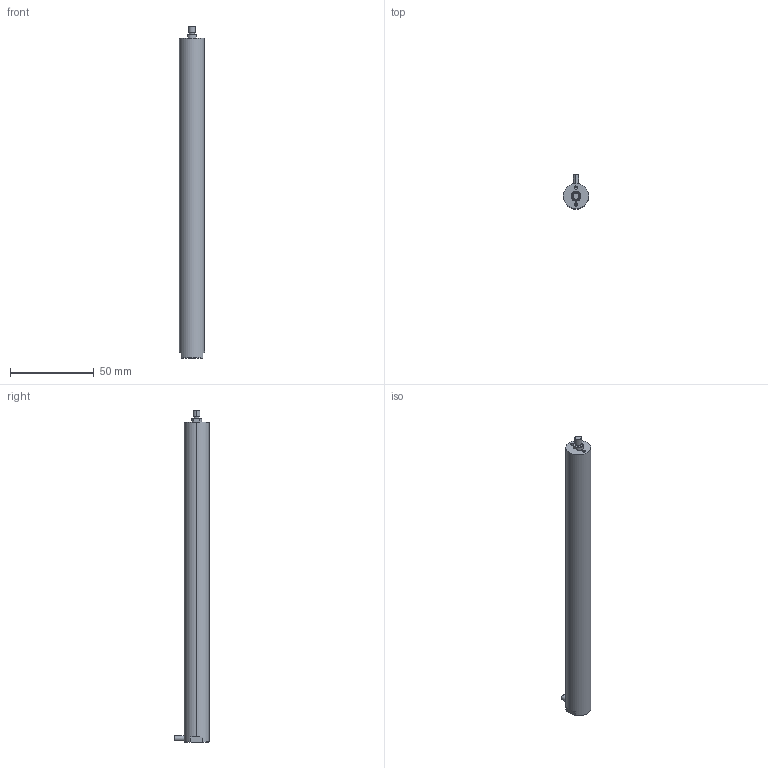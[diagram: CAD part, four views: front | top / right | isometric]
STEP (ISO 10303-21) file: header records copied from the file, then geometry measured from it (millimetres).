
FILE_DESCRIPTION (( 'STEP AP203' ), '1' );
FILE_NAME ('200VS15俋蹟恇.STEP', '2024-11-30T07:59:16', ( 'daohangxitong.com' ), ( 'daohangxitong.com' ), 'SwSTEP 2.0', 'SolidWorks 2016', '' );
FILE_SCHEMA (( 'CONFIG_CONTROL_DESIGN' ));
Length unit declared in the file: millimetre
Products named in the file (1): 200VS15俋蹟恇
Bounding box: 15 x 20.5 x 197.8 mm (x, y, z)
Volume: 33748.7 mm3; surface area: 9560.9 mm2
Topology: 1 solids, 1 shells, 973 faces, 2792 edges, 1855 vertices
Faces by surface type: bspline 851, cylinder 54, plane 54, cone 14
Entity records: 52864 total; most frequent: CARTESIAN_POINT 34975, ORIENTED_EDGE 5572, EDGE_CURVE 2786, B_SPLINE_CURVE_WITH_KNOTS 2609, VERTEX_POINT 1855, EDGE_LOOP 1013, FACE_OUTER_BOUND 973, ADVANCED_FACE 973
